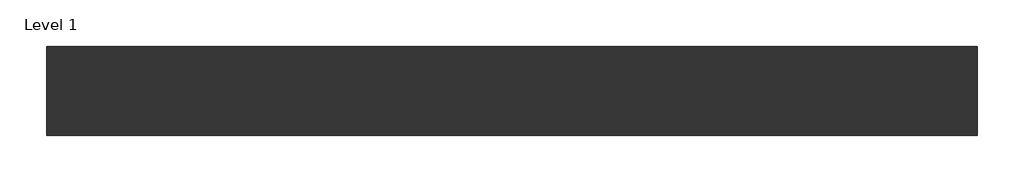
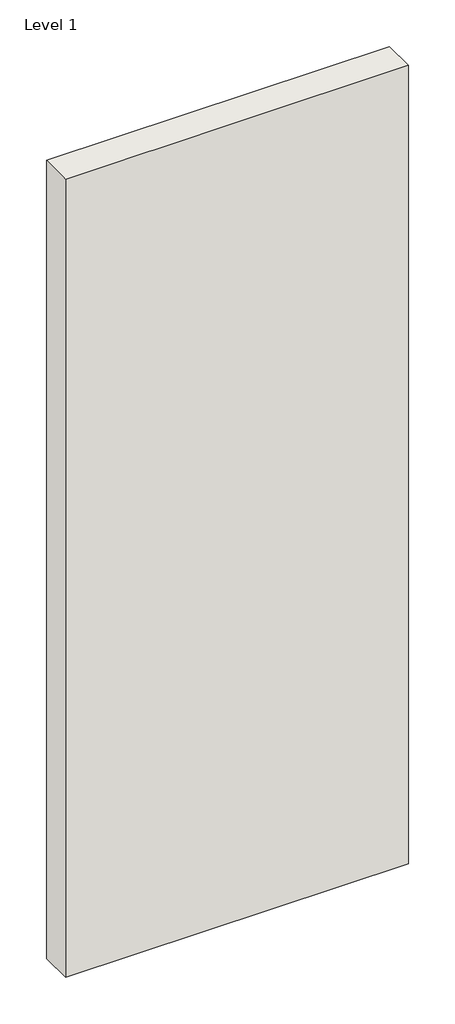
# One storey: 1 wall.
"""IFC4 building model written with IfcOpenShell, lengths in millimetres."""

from ifc_helpers import new_model, si_unit, origin, origin_with_axes, place, context, project, spatial, polyline, outline, extrude, element, save

model = new_model("IFC4")

# Units and contexts
model_context = context("Model", 3, world=origin())
ifc_project = project(units=[si_unit("LENGTHUNIT", "METRE", prefix="MILLI")], contexts=[model_context])

# Site, building, storey
site = spatial("IfcSite", under=ifc_project)
building = spatial("IfcBuilding", under=site)
storey = spatial("IfcBuildingStorey", under=building, Name="Level 1", Elevation=0.0)

# Wall
placement = place(None, origin())
element("IfcWall", 1, ObjectType="Trasdosado Simple – Placo® Habito® 95(70) HBT13 + BA13 + 70LM c/600", at=placement, inside=storey, context=model_context, shape_type="SweptSolid", body=[
    extrude(outline(polyline([(-28676.4711674, -89232.8970389), (-29876.4711674, -89232.8970389), (-29876.4711674, -89117.8970389), (-28676.4711674, -89117.8970389), (-28676.4711674, -89232.8970389)])), origin_with_axes(), (0.0, 0.0, 1.0), 2950.0),
])

save(model, "model.ifc")
